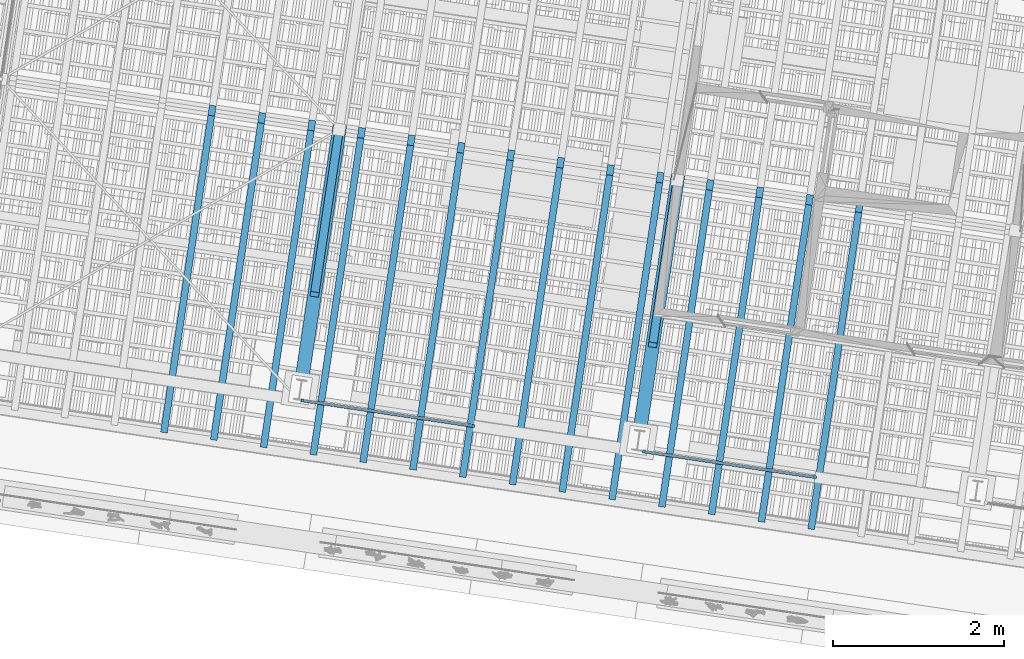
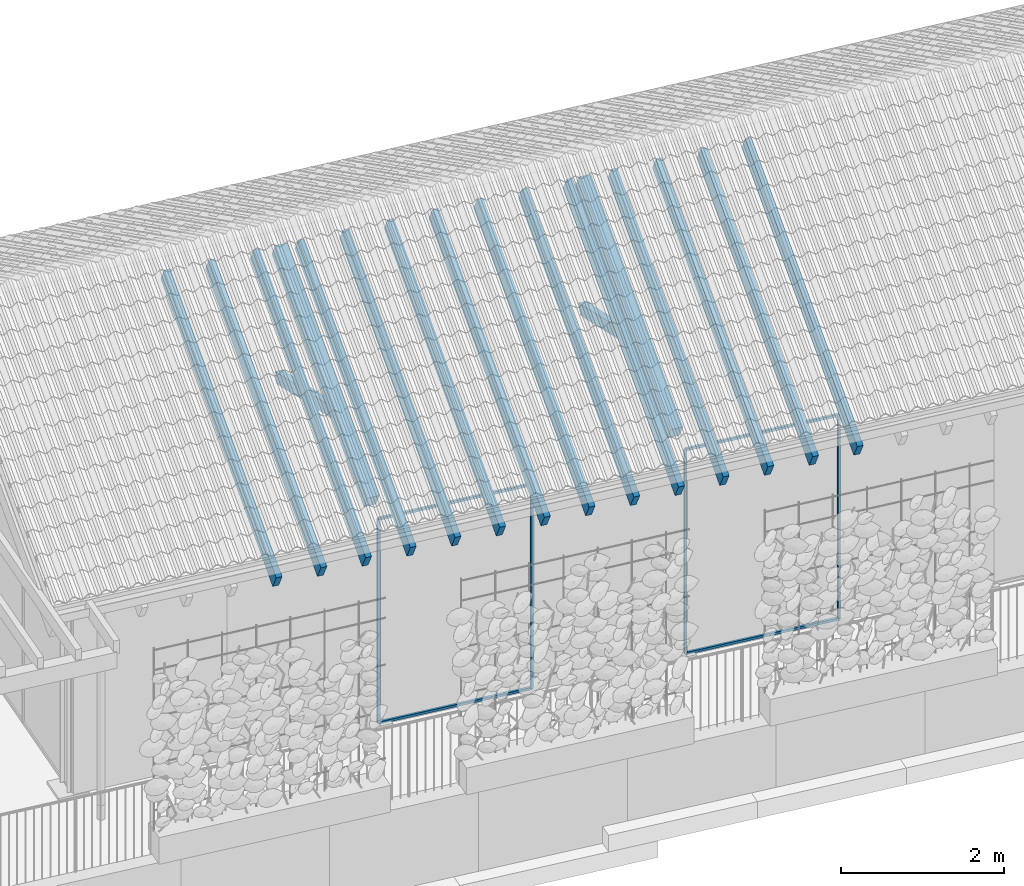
# One storey, part 58 of 128: 26 members, 1 element without a shape of its own.
"""IFC4 building model written with IfcOpenShell, lengths in metres."""

from ifc_helpers import new_model, si_unit, direction, frame, origin_with_axes, place, context, subcontext, project, spatial, rectangle, extrude, material, material_profile, profile_set, profile_usage, type_object, element, aggregate, save


model = new_model("IFC4")

# Units and contexts
model_context = context("Model", 3, precision=1e-05, world=origin_with_axes(), true_north=direction((0.0, 1.0)))
body_context = subcontext(model_context, "Body", "Model", "MODEL_VIEW")
ifc_project = project(units=[si_unit("VOLUMEUNIT", "CUBIC_METRE"), si_unit("LENGTHUNIT", "METRE"), si_unit("AREAUNIT", "SQUARE_METRE")], contexts=[model_context])

# Site, building, storey
site_placement = place(None, origin_with_axes())
site = spatial("IfcSite", under=ifc_project, at=site_placement, Name="Lares · Rua das Mercês · artigo 4771")
building_placement = place(site_placement, frame((15.0, 9.7, 13.9), z_axis=(0.0, 0.0, 1.0), x_axis=(0.989015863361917, -0.147809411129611, 0.0)))
building = spatial("IfcBuilding", under=site, at=building_placement, Name="Casa Sobreposta")
storey_placement = place(building_placement, origin_with_axes())
storey = spatial("IfcBuildingStorey", under=building, at=storey_placement, Name="00 · Habitação e estacionamento", Elevation=13.9)

# Members
ifc_material_1 = material(Name="Aço pintado / Stahl lackiert", Category="steel")
ifc_material_profile_1 = material_profile(ifc_material_1, rectangle(XDim=0.035, YDim=0.035))
ifc_profile_set_1 = profile_set([ifc_material_profile_1], Name="R0.035")
ifc_profile_usage_1 = profile_usage(ifc_profile_set_1)
member_type_1 = type_object("IfcMemberType", Name="R0.035 / steel", PredefinedType="NOTDEFINED", material=ifc_profile_set_1)
member_1_placement = place(storey_placement, frame((4.04266666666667, 0.0, 0.0), z_axis=(0.0, 0.0, 1.0), x_axis=(1.0, 0.0, 0.0)))
element("IfcMember", 1, at=member_1_placement, inside=storey, type_object=member_type_1, material=ifc_profile_usage_1, Name="Folha de correr sul 2 · montante", context=body_context, shape_type="SweptSolid", body=[
    extrude(rectangle(XDim=0.035, YDim=0.035), origin_with_axes(), (0.0, 0.0, 1.0), 3.05),
])
ifc_profile_usage_2 = profile_usage(ifc_profile_set_1)
member_2_placement = place(storey_placement, frame((6.064, 0.0, 0.0), z_axis=(0.0, 0.0, 1.0), x_axis=(1.0, 0.0, 0.0)))
element("IfcMember", 2, at=member_2_placement, inside=storey, type_object=member_type_1, material=ifc_profile_usage_2, Name="Folha de correr sul 2 · montante", context=body_context, shape_type="SweptSolid", body=[
    extrude(rectangle(XDim=0.035, YDim=0.035), origin_with_axes(), (0.0, 0.0, 1.0), 3.05),
])
ifc_profile_usage_3 = profile_usage(ifc_profile_set_1)
member_3_placement = place(storey_placement, frame((4.04266666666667, 0.0, 0.0), z_axis=(1.0, 0.0, 0.0), x_axis=(0.0, -1.0, 0.0)))
element("IfcMember", 3, at=member_3_placement, inside=storey, type_object=member_type_1, material=ifc_profile_usage_3, Name="Folha de correr sul 2 · travessa", context=body_context, shape_type="SweptSolid", body=[
    extrude(rectangle(XDim=0.035, YDim=0.035), origin_with_axes(), (0.0, 0.0, 1.0), 2.02133333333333),
])
ifc_profile_usage_4 = profile_usage(ifc_profile_set_1)
member_4_placement = place(storey_placement, frame((4.04266666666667, 0.0, 3.05), z_axis=(1.0, 0.0, 0.0), x_axis=(0.0, -1.0, 0.0)))
element("IfcMember", 4, at=member_4_placement, inside=storey, type_object=member_type_1, material=ifc_profile_usage_4, Name="Folha de correr sul 2 · travessa", context=body_context, shape_type="SweptSolid", body=[
    extrude(rectangle(XDim=0.035, YDim=0.035), origin_with_axes(), (0.0, 0.0, 1.0), 2.02133333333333),
])
ifc_profile_usage_5 = profile_usage(ifc_profile_set_1)
member_5_placement = place(storey_placement, frame((8.08533333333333, 0.0, 0.0), z_axis=(0.0, 0.0, 1.0), x_axis=(1.0, 0.0, 0.0)))
element("IfcMember", 5, at=member_5_placement, inside=storey, type_object=member_type_1, material=ifc_profile_usage_5, Name="Folha de correr sul 4 · montante", context=body_context, shape_type="SweptSolid", body=[
    extrude(rectangle(XDim=0.035, YDim=0.035), origin_with_axes(), (0.0, 0.0, 1.0), 3.05),
])
ifc_profile_usage_6 = profile_usage(ifc_profile_set_1)
member_6_placement = place(storey_placement, frame((10.1066666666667, 0.0, 0.0), z_axis=(0.0, 0.0, 1.0), x_axis=(1.0, 0.0, 0.0)))
element("IfcMember", 6, at=member_6_placement, inside=storey, type_object=member_type_1, material=ifc_profile_usage_6, Name="Folha de correr sul 4 · montante", context=body_context, shape_type="SweptSolid", body=[
    extrude(rectangle(XDim=0.035, YDim=0.035), origin_with_axes(), (0.0, 0.0, 1.0), 3.05),
])
ifc_profile_usage_7 = profile_usage(ifc_profile_set_1)
member_7_placement = place(storey_placement, frame((8.08533333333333, 0.0, 0.0), z_axis=(1.0, 0.0, 0.0), x_axis=(0.0, -1.0, 0.0)))
element("IfcMember", 7, at=member_7_placement, inside=storey, type_object=member_type_1, material=ifc_profile_usage_7, Name="Folha de correr sul 4 · travessa", context=body_context, shape_type="SweptSolid", body=[
    extrude(rectangle(XDim=0.035, YDim=0.035), origin_with_axes(), (0.0, 0.0, 1.0), 2.02133333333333),
])
ifc_profile_usage_8 = profile_usage(ifc_profile_set_1)
member_8_placement = place(storey_placement, frame((8.08533333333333, 0.0, 3.05), z_axis=(1.0, 0.0, 0.0), x_axis=(0.0, -1.0, 0.0)))
element("IfcMember", 8, at=member_8_placement, inside=storey, type_object=member_type_1, material=ifc_profile_usage_8, Name="Folha de correr sul 4 · travessa", context=body_context, shape_type="SweptSolid", body=[
    extrude(rectangle(XDim=0.035, YDim=0.035), origin_with_axes(), (0.0, 0.0, 1.0), 2.02133333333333),
])

# Roof, members
ifc_material_2 = material(Name="Madeira / Bauholz", Category="wood")
roof_placement = place(storey_placement, origin_with_axes())
roof = element("IfcRoof", 9, at=roof_placement, inside=storey, material=ifc_material_2, Name="Cobertura de telha · duas águas 30 graus", PredefinedType="GABLE_ROOF")
ifc_material_profile_2 = material_profile(ifc_material_2, rectangle(XDim=0.16, YDim=0.24))
ifc_profile_set_2 = profile_set([ifc_material_profile_2], Name="TIMBER0.160x0.240")
ifc_profile_usage_9 = profile_usage(ifc_profile_set_2)
member_type_2 = type_object("IfcMemberType", Name="TIMBER0.160x0.240 / timber", PredefinedType="NOTDEFINED", material=ifc_profile_set_2)
member_9_placement = place(roof_placement, frame((4.0, 0.12, 3.24428203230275), z_axis=(0.0, 0.866025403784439, 0.5), x_axis=(1.0, 0.0, 0.0)))
member_9 = element("IfcMember", 10, at=member_9_placement, type_object=member_type_2, material=ifc_profile_usage_9, Name="Tesoura · perna", context=body_context, shape_type="SweptSolid", body=[
    extrude(rectangle(XDim=0.16, YDim=0.24), origin_with_axes(), (0.0, 0.0, 1.0), 3.5564776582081),
])
ifc_profile_usage_10 = profile_usage(ifc_profile_set_2)
member_10_placement = place(roof_placement, frame((8.0, 0.12, 3.24428203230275), z_axis=(0.0, 0.866025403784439, 0.5), x_axis=(1.0, 0.0, 0.0)))
member_10 = element("IfcMember", 11, at=member_10_placement, type_object=member_type_2, material=ifc_profile_usage_10, Name="Tesoura · perna", context=body_context, shape_type="SweptSolid", body=[
    extrude(rectangle(XDim=0.16, YDim=0.24), origin_with_axes(), (0.0, 0.0, 1.0), 3.5564776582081),
])
ifc_material_profile_3 = material_profile(ifc_material_2, rectangle(XDim=0.1, YDim=0.16))
ifc_profile_set_3 = profile_set([ifc_material_profile_3], Name="TIMBER0.100x0.160")
ifc_profile_usage_11 = profile_usage(ifc_profile_set_3)
member_type_3 = type_object("IfcMemberType", Name="TIMBER0.100x0.160 / timber", PredefinedType="NOTDEFINED", material=ifc_profile_set_3)
member_11_placement = place(roof_placement, frame((4.0, 3.2, 3.1), z_axis=(0.0, -0.937832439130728, 0.347088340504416), x_axis=(-1.0, 0.0, 0.0)))
member_11 = element("IfcMember", 12, at=member_11_placement, type_object=member_type_3, material=ifc_profile_usage_11, Name="Tesoura · escora", context=body_context, shape_type="SweptSolid", body=[
    extrude(rectangle(XDim=0.1, YDim=0.16), origin_with_axes(), (0.0, 0.0, 1.0), 2.07926268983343),
])
ifc_profile_usage_12 = profile_usage(ifc_profile_set_3)
member_12_placement = place(roof_placement, frame((8.0, 3.2, 3.1), z_axis=(0.0, -0.937832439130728, 0.347088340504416), x_axis=(-1.0, 0.0, 0.0)))
member_12 = element("IfcMember", 13, at=member_12_placement, type_object=member_type_3, material=ifc_profile_usage_12, Name="Tesoura · escora", context=body_context, shape_type="SweptSolid", body=[
    extrude(rectangle(XDim=0.1, YDim=0.16), origin_with_axes(), (0.0, 0.0, 1.0), 2.07926268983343),
])
ifc_material_profile_4 = material_profile(ifc_material_2, rectangle(XDim=0.08, YDim=0.24))
ifc_profile_set_4 = profile_set([ifc_material_profile_4], Name="TIMBER0.080x0.240")
ifc_profile_usage_13 = profile_usage(ifc_profile_set_4)
member_type_4 = type_object("IfcMemberType", Name="TIMBER0.080x0.240 / timber", PredefinedType="NOTDEFINED", material=ifc_profile_set_4)
member_13_placement = place(roof_placement, frame((2.49528301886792, -0.55, 2.86345735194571), z_axis=(0.0, 0.866025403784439, 0.5), x_axis=(1.0, 0.0, 0.0)))
member_13 = element("IfcMember", 14, at=member_13_placement, type_object=member_type_4, material=ifc_profile_usage_13, Name="Cobertura · caibro", context=body_context, shape_type="SweptSolid", body=[
    extrude(rectangle(XDim=0.08, YDim=0.24), origin_with_axes(), (0.0, 0.0, 1.0), 4.33012701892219),
])
ifc_profile_usage_14 = profile_usage(ifc_profile_set_4)
member_14_placement = place(roof_placement, frame((3.08433962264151, -0.55, 2.86345735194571), z_axis=(0.0, 0.866025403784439, 0.5), x_axis=(1.0, 0.0, 0.0)))
member_14 = element("IfcMember", 15, at=member_14_placement, type_object=member_type_4, material=ifc_profile_usage_14, Name="Cobertura · caibro", context=body_context, shape_type="SweptSolid", body=[
    extrude(rectangle(XDim=0.08, YDim=0.24), origin_with_axes(), (0.0, 0.0, 1.0), 4.33012701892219),
])
ifc_profile_usage_15 = profile_usage(ifc_profile_set_4)
member_15_placement = place(roof_placement, frame((3.67339622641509, -0.55, 2.86345735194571), z_axis=(0.0, 0.866025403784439, 0.5), x_axis=(1.0, 0.0, 0.0)))
member_15 = element("IfcMember", 16, at=member_15_placement, type_object=member_type_4, material=ifc_profile_usage_15, Name="Cobertura · caibro", context=body_context, shape_type="SweptSolid", body=[
    extrude(rectangle(XDim=0.08, YDim=0.24), origin_with_axes(), (0.0, 0.0, 1.0), 4.33012701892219),
])
ifc_profile_usage_16 = profile_usage(ifc_profile_set_4)
member_16_placement = place(roof_placement, frame((4.26245283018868, -0.55, 2.86345735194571), z_axis=(0.0, 0.866025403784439, 0.5), x_axis=(1.0, 0.0, 0.0)))
member_16 = element("IfcMember", 17, at=member_16_placement, type_object=member_type_4, material=ifc_profile_usage_16, Name="Cobertura · caibro", context=body_context, shape_type="SweptSolid", body=[
    extrude(rectangle(XDim=0.08, YDim=0.24), origin_with_axes(), (0.0, 0.0, 1.0), 4.33012701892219),
])
ifc_profile_usage_17 = profile_usage(ifc_profile_set_4)
member_17_placement = place(roof_placement, frame((4.85150943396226, -0.55, 2.86345735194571), z_axis=(0.0, 0.866025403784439, 0.5), x_axis=(1.0, 0.0, 0.0)))
member_17 = element("IfcMember", 18, at=member_17_placement, type_object=member_type_4, material=ifc_profile_usage_17, Name="Cobertura · caibro", context=body_context, shape_type="SweptSolid", body=[
    extrude(rectangle(XDim=0.08, YDim=0.24), origin_with_axes(), (0.0, 0.0, 1.0), 4.33012701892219),
])
ifc_profile_usage_18 = profile_usage(ifc_profile_set_4)
member_18_placement = place(roof_placement, frame((5.44056603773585, -0.55, 2.86345735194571), z_axis=(0.0, 0.866025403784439, 0.5), x_axis=(1.0, 0.0, 0.0)))
member_18 = element("IfcMember", 19, at=member_18_placement, type_object=member_type_4, material=ifc_profile_usage_18, Name="Cobertura · caibro", context=body_context, shape_type="SweptSolid", body=[
    extrude(rectangle(XDim=0.08, YDim=0.24), origin_with_axes(), (0.0, 0.0, 1.0), 4.33012701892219),
])
ifc_profile_usage_19 = profile_usage(ifc_profile_set_4)
member_19_placement = place(roof_placement, frame((6.02962264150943, -0.55, 2.86345735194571), z_axis=(0.0, 0.866025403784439, 0.5), x_axis=(1.0, 0.0, 0.0)))
member_19 = element("IfcMember", 20, at=member_19_placement, type_object=member_type_4, material=ifc_profile_usage_19, Name="Cobertura · caibro", context=body_context, shape_type="SweptSolid", body=[
    extrude(rectangle(XDim=0.08, YDim=0.24), origin_with_axes(), (0.0, 0.0, 1.0), 4.33012701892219),
])
ifc_profile_usage_20 = profile_usage(ifc_profile_set_4)
member_20_placement = place(roof_placement, frame((6.61867924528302, -0.55, 2.86345735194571), z_axis=(0.0, 0.866025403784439, 0.5), x_axis=(1.0, 0.0, 0.0)))
member_20 = element("IfcMember", 21, at=member_20_placement, type_object=member_type_4, material=ifc_profile_usage_20, Name="Cobertura · caibro", context=body_context, shape_type="SweptSolid", body=[
    extrude(rectangle(XDim=0.08, YDim=0.24), origin_with_axes(), (0.0, 0.0, 1.0), 4.33012701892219),
])
ifc_profile_usage_21 = profile_usage(ifc_profile_set_4)
member_21_placement = place(roof_placement, frame((7.2077358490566, -0.55, 2.86345735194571), z_axis=(0.0, 0.866025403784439, 0.5), x_axis=(1.0, 0.0, 0.0)))
member_21 = element("IfcMember", 22, at=member_21_placement, type_object=member_type_4, material=ifc_profile_usage_21, Name="Cobertura · caibro", context=body_context, shape_type="SweptSolid", body=[
    extrude(rectangle(XDim=0.08, YDim=0.24), origin_with_axes(), (0.0, 0.0, 1.0), 4.33012701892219),
])
ifc_profile_usage_22 = profile_usage(ifc_profile_set_4)
member_22_placement = place(roof_placement, frame((7.79679245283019, -0.55, 2.86345735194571), z_axis=(0.0, 0.866025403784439, 0.5), x_axis=(1.0, 0.0, 0.0)))
member_22 = element("IfcMember", 23, at=member_22_placement, type_object=member_type_4, material=ifc_profile_usage_22, Name="Cobertura · caibro", context=body_context, shape_type="SweptSolid", body=[
    extrude(rectangle(XDim=0.08, YDim=0.24), origin_with_axes(), (0.0, 0.0, 1.0), 4.33012701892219),
])
ifc_profile_usage_23 = profile_usage(ifc_profile_set_4)
member_23_placement = place(roof_placement, frame((8.38584905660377, -0.55, 2.86345735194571), z_axis=(0.0, 0.866025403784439, 0.5), x_axis=(1.0, 0.0, 0.0)))
member_23 = element("IfcMember", 24, at=member_23_placement, type_object=member_type_4, material=ifc_profile_usage_23, Name="Cobertura · caibro", context=body_context, shape_type="SweptSolid", body=[
    extrude(rectangle(XDim=0.08, YDim=0.24), origin_with_axes(), (0.0, 0.0, 1.0), 4.33012701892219),
])
ifc_profile_usage_24 = profile_usage(ifc_profile_set_4)
member_24_placement = place(roof_placement, frame((8.97490566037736, -0.55, 2.86345735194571), z_axis=(0.0, 0.866025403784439, 0.5), x_axis=(1.0, 0.0, 0.0)))
member_24 = element("IfcMember", 25, at=member_24_placement, type_object=member_type_4, material=ifc_profile_usage_24, Name="Cobertura · caibro", context=body_context, shape_type="SweptSolid", body=[
    extrude(rectangle(XDim=0.08, YDim=0.24), origin_with_axes(), (0.0, 0.0, 1.0), 4.33012701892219),
])
ifc_profile_usage_25 = profile_usage(ifc_profile_set_4)
member_25_placement = place(roof_placement, frame((9.56396226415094, -0.55, 2.86345735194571), z_axis=(0.0, 0.866025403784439, 0.5), x_axis=(1.0, 0.0, 0.0)))
member_25 = element("IfcMember", 26, at=member_25_placement, type_object=member_type_4, material=ifc_profile_usage_25, Name="Cobertura · caibro", context=body_context, shape_type="SweptSolid", body=[
    extrude(rectangle(XDim=0.08, YDim=0.24), origin_with_axes(), (0.0, 0.0, 1.0), 4.33012701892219),
])
ifc_profile_usage_26 = profile_usage(ifc_profile_set_4)
member_26_placement = place(roof_placement, frame((10.1530188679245, -0.55, 2.86345735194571), z_axis=(0.0, 0.866025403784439, 0.5), x_axis=(1.0, 0.0, 0.0)))
member_26 = element("IfcMember", 27, at=member_26_placement, type_object=member_type_4, material=ifc_profile_usage_26, Name="Cobertura · caibro", context=body_context, shape_type="SweptSolid", body=[
    extrude(rectangle(XDim=0.08, YDim=0.24), origin_with_axes(), (0.0, 0.0, 1.0), 4.33012701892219),
])
aggregate(roof, [member_9, member_11, member_10, member_12, member_13, member_14, member_15, member_16, member_17, member_18, member_19, member_20, member_21, member_22, member_23, member_24, member_25, member_26])

save(model, "model.ifc")
